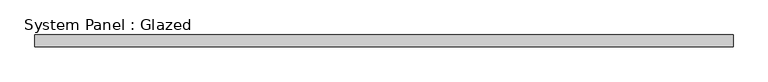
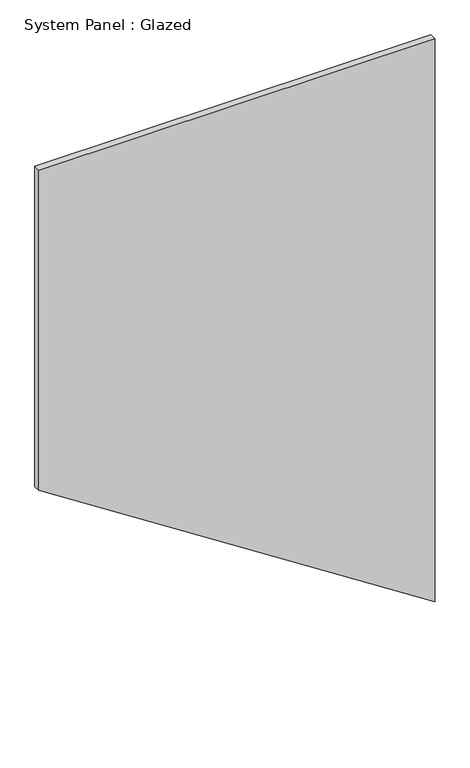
"""IFC4 building model written with IfcOpenShell, lengths in millimetres: plate geometry, System Panel : Glazed."""

from ifc_helpers import new_model, si_unit, frame, origin, place, context, project, spatial, polyline, outline, extrude, source, transform, mapped, element, save


def system_panel_glazed_47ca1d55(model_context):
    return source(origin(), model_context, "Body", "SweptSolid", [
        extrude(outline(polyline([(952.4450444, -735.8695652), (0.0, 735.8695652), (2209.2791181, 735.8695652), (2209.2791181, -735.8695652), (952.4450444, -735.8695652)])), frame((0.0, 24.5, 0.0), z_axis=(0.0, 1.0, 0.0), x_axis=(0.0, 0.0, 1.0)), (0.0, 0.0, 1.0), 25.0),
    ])


if __name__ == "__main__":
    model = new_model("IFC4")
    model_context = context("Model", 3, world=origin())
    ifc_project = project(units=[si_unit("LENGTHUNIT", "METRE", prefix="MILLI")], contexts=[model_context])
    site = spatial("IfcSite", under=ifc_project)
    building = spatial("IfcBuilding", under=site)
    placement = place(None, origin())
    system_panel_glazed_shape = system_panel_glazed_47ca1d55(model_context)
    element("IfcPlate", 1, ObjectType="System Panel : Glazed", at=placement, inside=building, context=model_context, shape_type="MappedRepresentation", body=[
        mapped(system_panel_glazed_shape, transform((0.0, 0.0, 0.0), x_axis=(1.0, 0.0, 0.0), y_axis=(0.0, 1.0, 0.0), z_axis=(0.0, 0.0, 1.0))),
    ])
    save(model, "model.ifc")
